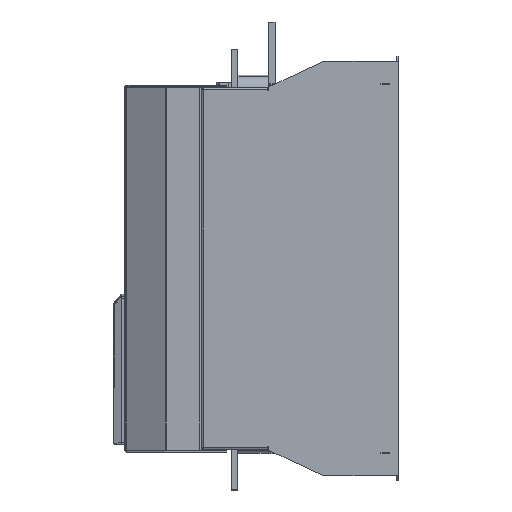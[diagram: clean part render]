
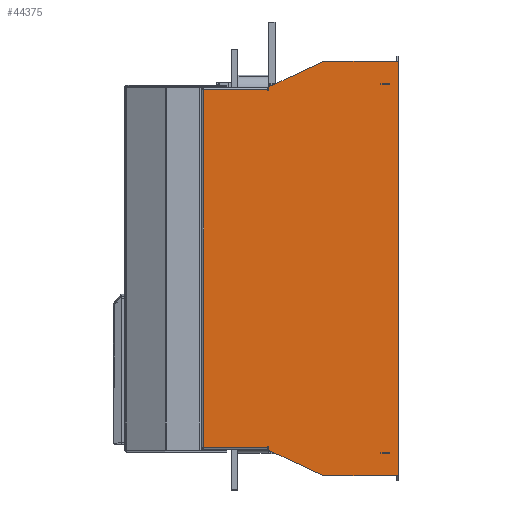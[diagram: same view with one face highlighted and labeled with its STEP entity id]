
A CAD part, left-side view. The second image highlights one B-rep face of the part: STEP entity #44375.
In plain terms, the highlighted planar face has unit normal (-1, 0, 0).
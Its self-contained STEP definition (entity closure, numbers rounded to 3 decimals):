
#336 = EDGE_CURVE ( 'NONE', #36149, #34139, #116460, .T. ) ;
#353 = EDGE_CURVE ( 'NONE', #34181, #36149, #116480, .T. ) ;
#372 = EDGE_CURVE ( 'NONE', #34139, #106026, #116503, .T. ) ;
#376 = EDGE_CURVE ( 'NONE', #36145, #35853, #116496, .T. ) ;
#385 = EDGE_CURVE ( 'NONE', #35496, #34853, #116524, .T. ) ;
#395 = EDGE_CURVE ( 'NONE', #34757, #34262, #116552, .T. ) ;
#405 = EDGE_CURVE ( 'NONE', #36045, #34757, #116572, .T. ) ;
#433 = EDGE_CURVE ( 'NONE', #34466, #34170, #116623, .T. ) ;
#579 = FACE_OUTER_BOUND ( 'NONE', #37628, .T. ) ;
#601 = EDGE_CURVE ( 'NONE', #34466, #34181, #89720, .T. ) ;
#1188 = EDGE_CURVE ( 'NONE', #34853, #34456, #91315, .T. ) ;
#27377 = AXIS2_PLACEMENT_3D ( 'NONE', #93899, #93897, #93896 ) ;
#34139 = VERTEX_POINT ( 'NONE', #68097 ) ;
#34170 = VERTEX_POINT ( 'NONE', #68074 ) ;
#34181 = VERTEX_POINT ( 'NONE', #68156 ) ;
#34262 = VERTEX_POINT ( 'NONE', #67918 ) ;
#34456 = VERTEX_POINT ( 'NONE', #88726 ) ;
#34466 = VERTEX_POINT ( 'NONE', #88716 ) ;
#34757 = VERTEX_POINT ( 'NONE', #89247 ) ;
#34853 = VERTEX_POINT ( 'NONE', #89253 ) ;
#35496 = VERTEX_POINT ( 'NONE', #88902 ) ;
#35853 = VERTEX_POINT ( 'NONE', #64144 ) ;
#36045 = VERTEX_POINT ( 'NONE', #63962 ) ;
#36145 = VERTEX_POINT ( 'NONE', #64303 ) ;
#36149 = VERTEX_POINT ( 'NONE', #64893 ) ;
#37628 = EDGE_LOOP ( 'NONE', ( #59653, #59655, #45693, #45481, #44406, #59701, #59699, #59807, #59715, #59879, #59019, #59022, #59934, #44747 ) ) ;
#44375 = ADVANCED_FACE ( 'NONE', ( #579 ), #93921, .T. ) ;
#44406 = ORIENTED_EDGE ( 'NONE', *, *, #385, .T. ) ;
#44747 = ORIENTED_EDGE ( 'NONE', *, *, #601, .T. ) ;
#45481 = ORIENTED_EDGE ( 'NONE', *, *, #118396, .T. ) ;
#45693 = ORIENTED_EDGE ( 'NONE', *, *, #372, .T. ) ;
#59019 = ORIENTED_EDGE ( 'NONE', *, *, #376, .T. ) ;
#59022 = ORIENTED_EDGE ( 'NONE', *, *, #118263, .T. ) ;
#59653 = ORIENTED_EDGE ( 'NONE', *, *, #353, .T. ) ;
#59655 = ORIENTED_EDGE ( 'NONE', *, *, #336, .T. ) ;
#59699 = ORIENTED_EDGE ( 'NONE', *, *, #118386, .T. ) ;
#59701 = ORIENTED_EDGE ( 'NONE', *, *, #1188, .T. ) ;
#59715 = ORIENTED_EDGE ( 'NONE', *, *, #395, .T. ) ;
#59807 = ORIENTED_EDGE ( 'NONE', *, *, #405, .T. ) ;
#59879 = ORIENTED_EDGE ( 'NONE', *, *, #118913, .T. ) ;
#59934 = ORIENTED_EDGE ( 'NONE', *, *, #433, .F. ) ;
#63962 = CARTESIAN_POINT ( 'NONE',  ( -195., 128.185, -175.6 ) ) ;
#64122 = DIRECTION ( 'NONE',  ( 0., -0.906, -0.423 ) ) ;
#64133 = DIRECTION ( 'NONE',  ( 0., 0., -1. ) ) ;
#64137 = CARTESIAN_POINT ( 'NONE',  ( -195., 128.185, -178. ) ) ;
#64144 = CARTESIAN_POINT ( 'NONE',  ( -195., 73.5, -203.5 ) ) ;
#64168 = CARTESIAN_POINT ( 'NONE',  ( -195., 128.185, 178. ) ) ;
#64214 = DIRECTION ( 'NONE',  ( 0., 1., 0. ) ) ;
#64233 = CARTESIAN_POINT ( 'NONE',  ( -195., 192., 174.8 ) ) ;
#64249 = DIRECTION ( 'NONE',  ( 0., 1., 0. ) ) ;
#64276 = DIRECTION ( 'NONE',  ( 0., 0.906, -0.423 ) ) ;
#64303 = CARTESIAN_POINT ( 'NONE',  ( -195., 127.385, -178.373 ) ) ;
#64374 = DIRECTION ( 'NONE',  ( 0., 1., 0. ) ) ;
#64489 = CARTESIAN_POINT ( 'NONE',  ( -195., 73.5, 203.5 ) ) ;
#64893 = CARTESIAN_POINT ( 'NONE',  ( -195., 127.385, 178.373 ) ) ;
#64941 = CARTESIAN_POINT ( 'NONE',  ( -195., 192., -174.8 ) ) ;
#65062 = CARTESIAN_POINT ( 'NONE',  ( -195., 128.185, 175.6 ) ) ;
#65101 = DIRECTION ( 'NONE',  ( 0., -1., 0. ) ) ;
#65548 = CARTESIAN_POINT ( 'NONE',  ( -195., 127.385, -178. ) ) ;
#65889 = DIRECTION ( 'NONE',  ( 0., 0., 1. ) ) ;
#65893 = CARTESIAN_POINT ( 'NONE',  ( -195., 128.185, -178. ) ) ;
#66141 = DIRECTION ( 'NONE',  ( 0., 0., -1. ) ) ;
#66211 = CARTESIAN_POINT ( 'NONE',  ( -195., 0., -178. ) ) ;
#67918 = CARTESIAN_POINT ( 'NONE',  ( -195., 127.385, -174.8 ) ) ;
#68074 = CARTESIAN_POINT ( 'NONE',  ( -195., 0., -203.5 ) ) ;
#68097 = CARTESIAN_POINT ( 'NONE',  ( -195., 127.385, 174.8 ) ) ;
#68156 = CARTESIAN_POINT ( 'NONE',  ( -195., 73.5, 203.5 ) ) ;
#75610 = CARTESIAN_POINT ( 'NONE',  ( -195., 127.385, -178. ) ) ;
#75611 = DIRECTION ( 'NONE',  ( 0., 0., -1. ) ) ;
#76887 = CARTESIAN_POINT ( 'NONE',  ( -195., 128.185, 174.8 ) ) ;
#78106 = VECTOR ( 'NONE', #75611, 1000. ) ;
#78110 = LINE ( 'NONE', #75610, #78106 ) ;
#85864 = CARTESIAN_POINT ( 'NONE',  ( -195., 73.5, -203.5 ) ) ;
#85865 = DIRECTION ( 'NONE',  ( 0., -1., 0. ) ) ;
#86182 = CARTESIAN_POINT ( 'NONE',  ( -195., 191.2, -175.6 ) ) ;
#86192 = DIRECTION ( 'NONE',  ( 0., -1., 0. ) ) ;
#86209 = CARTESIAN_POINT ( 'NONE',  ( -195., 128.185, -178. ) ) ;
#86216 = DIRECTION ( 'NONE',  ( 0., 0., 1. ) ) ;
#88716 = CARTESIAN_POINT ( 'NONE',  ( -195., 0., 203.5 ) ) ;
#88726 = CARTESIAN_POINT ( 'NONE',  ( -195., 191.2, -175.6 ) ) ;
#88902 = CARTESIAN_POINT ( 'NONE',  ( -195., 128.185, 175.6 ) ) ;
#89247 = CARTESIAN_POINT ( 'NONE',  ( -195., 128.185, -174.8 ) ) ;
#89253 = CARTESIAN_POINT ( 'NONE',  ( -195., 191.2, 175.6 ) ) ;
#89720 = LINE ( 'NONE', #64489, #89726 ) ;
#89726 = VECTOR ( 'NONE', #64374, 1000. ) ;
#90858 = CARTESIAN_POINT ( 'NONE',  ( -195., 191.2, -178. ) ) ;
#90979 = DIRECTION ( 'NONE',  ( 0., 0., -1. ) ) ;
#91315 = LINE ( 'NONE', #90858, #91319 ) ;
#91319 = VECTOR ( 'NONE', #90979, 1000. ) ;
#93896 = DIRECTION ( 'NONE',  ( 0., -1., 0. ) ) ;
#93897 = DIRECTION ( 'NONE',  ( -1., 0., 0. ) ) ;
#93899 = CARTESIAN_POINT ( 'NONE',  ( -195., 192., -178. ) ) ;
#93921 = PLANE ( 'NONE',  #27377 ) ;
#106026 = VERTEX_POINT ( 'NONE', #76887 ) ;
#109009 = LINE ( 'NONE', #85864, #110223 ) ;
#109317 = VECTOR ( 'NONE', #86216, 1000. ) ;
#109658 = LINE ( 'NONE', #86209, #109317 ) ;
#109774 = LINE ( 'NONE', #86182, #110776 ) ;
#110223 = VECTOR ( 'NONE', #85865, 1000. ) ;
#110776 = VECTOR ( 'NONE', #86192, 1000. ) ;
#116460 = LINE ( 'NONE', #65548, #116462 ) ;
#116462 = VECTOR ( 'NONE', #64133, 1000. ) ;
#116480 = LINE ( 'NONE', #64168, #116488 ) ;
#116488 = VECTOR ( 'NONE', #64276, 1000. ) ;
#116496 = LINE ( 'NONE', #64137, #116522 ) ;
#116503 = LINE ( 'NONE', #64233, #116511 ) ;
#116511 = VECTOR ( 'NONE', #64249, 1000. ) ;
#116522 = VECTOR ( 'NONE', #64122, 1000. ) ;
#116524 = LINE ( 'NONE', #65062, #116546 ) ;
#116546 = VECTOR ( 'NONE', #64214, 1000. ) ;
#116552 = LINE ( 'NONE', #64941, #116558 ) ;
#116558 = VECTOR ( 'NONE', #65101, 1000. ) ;
#116572 = LINE ( 'NONE', #65893, #116582 ) ;
#116582 = VECTOR ( 'NONE', #65889, 1000. ) ;
#116623 = LINE ( 'NONE', #66211, #116633 ) ;
#116633 = VECTOR ( 'NONE', #66141, 1000. ) ;
#118263 = EDGE_CURVE ( 'NONE', #35853, #34170, #109009, .T. ) ;
#118386 = EDGE_CURVE ( 'NONE', #34456, #36045, #109774, .T. ) ;
#118396 = EDGE_CURVE ( 'NONE', #106026, #35496, #109658, .T. ) ;
#118913 = EDGE_CURVE ( 'NONE', #34262, #36145, #78110, .T. ) ;
